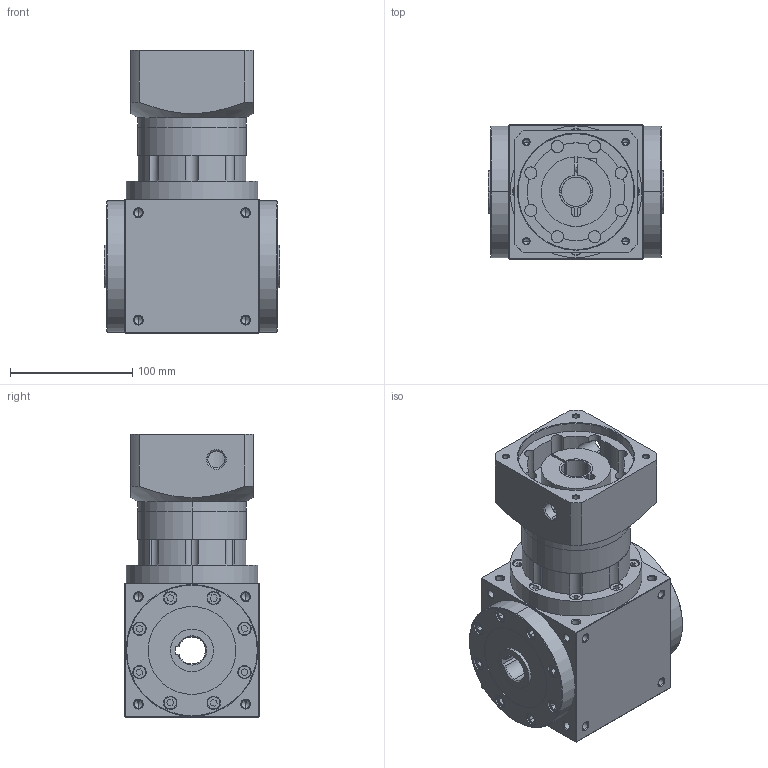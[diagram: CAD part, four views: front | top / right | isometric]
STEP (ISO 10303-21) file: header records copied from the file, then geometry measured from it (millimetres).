
FILE_DESCRIPTION (( 'STEP AP203' ), '1' );
FILE_NAME ('AT120-FH-L2-24-95-115M6.STEP', '2025-08-14T07:04:04', ( 'Windows User' ), ( 'P R C' ), 'SwSTEP 2.0', 'SolidWorks 2016', '' );
FILE_SCHEMA (( 'CONFIG_CONTROL_DESIGN' ));
Length unit declared in the file: millimetre
Products named in the file (6): AT120-输入法兰-J-1-50-95-M6-115-方100; 输入胀套-27; AT120-FH-L2-24-95-115M6; AT120-蛌褒眊极-謂怀堤; AT120-怀堤楊擘-蠶講; AT120-单级齿圈
Assembly tree (5 placements, depth 2):
  AT120-FH-L2-24-95-115M6
    AT120-蛌褒眊极-謂怀堤
    AT120-怀堤楊擘-蠶講
    AT120-单级齿圈
    AT120-输入法兰-J-1-50-95-M6-115-方100
    输入胀套-27
Bounding box: 144 x 110 x 232 mm (x, y, z)
Volume: 1783372.9 mm3; surface area: 289612.5 mm2
Topology: 5 solids, 17 shells, 1517 faces, 3965 edges, 2526 vertices
Faces by surface type: plane 787, cylinder 373, cone 226, bspline 131
Entity records: 51982 total; most frequent: CARTESIAN_POINT 15318, ORIENTED_EDGE 7754, DIRECTION 6983, EDGE_CURVE 3877, VERTEX_POINT 2526, VECTOR 2503, LINE 2503, AXIS2_PLACEMENT_3D 2240
